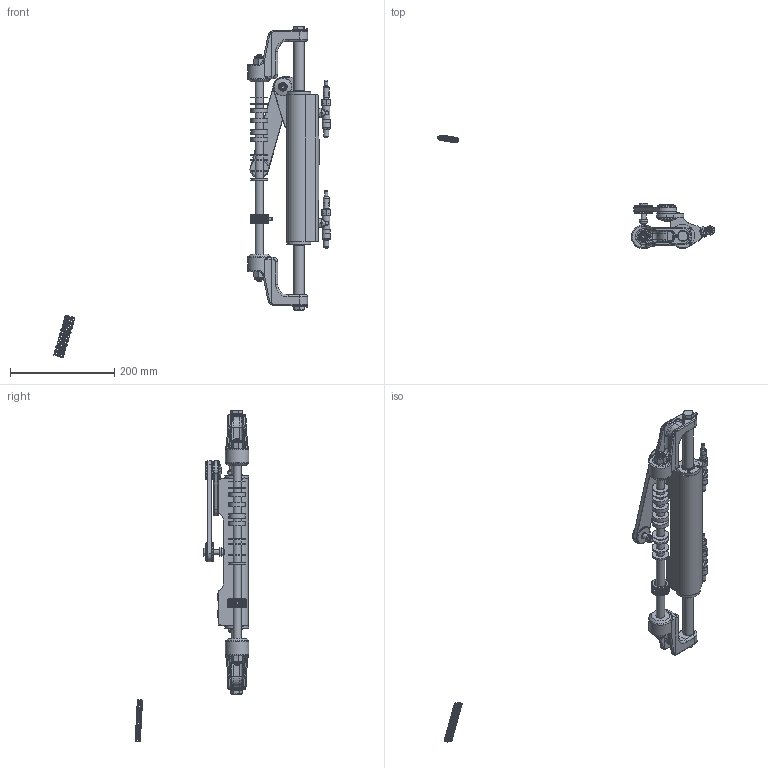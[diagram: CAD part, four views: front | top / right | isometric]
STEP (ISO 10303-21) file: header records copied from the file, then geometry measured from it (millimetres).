
FILE_DESCRIPTION(/* description */ (''),/* implementation_level */ '2;1');
FILE_NAME(/* name */ 'C:\Users\a.milanese\Desktop\Temporanea\UC128TS 5-9-2019.stp',/* time_stamp */ '2019-09-05T13:56:25+02:00',/* author */ ('a.milanese'),/* organization */ (''),/* preprocessor_version */ 'ST-DEVELOPER v18',/* originating_system */ 'Autodesk Inventor 2020',/* authorisation */ '');
FILE_SCHEMA (('AUTOMOTIVE_DESIGN { 1 0 10303 214 3 1 1 }'));
Length unit declared in the file: millimetre
Products named in the file (62): 32203 COMPLESSIVO ASSEMBLATO UC128-1 STARBOARD TESTATA SMONTABILE; 32215 ; 32212 ; 32216 ; 18137; 18129; 21680; 18042; 21681; 21828; 19097; 18131; 22823; 18134; 18135; 18982; 18136; 9591; 9601; 20429; 22411; 20303; 20562; 27785; 21971; 20564; 6674; 20452; 20395 ; 809; 22415; 22416; 8115; 8139; 8231; 27242; 22313; 20315; 25009 ; 24638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
Assembly tree (97 placements, depth 3):
  32203 COMPLESSIVO ASSEMBLATO UC128-1 STARBOARD TESTATA SMONTABILE
    32215   x2
    32212 
    32216   x2
    18137  x2
    18129  x2
    21680
    18042
    21681
    21828
    21787  x2
    21743  x2
    21745  x2
    19097  x2
    18131
    22823
    18134  x2
    18135  x4
    18982
    18136  x3
    9591
    8231  x3
    9601
    20429
    22411
      20303
      20562  x4
      27785  x2
      21971
      20564
      6674
      20452
      20395   x2
      809
      22415
      22416
      8115
      8139  x2
      8231  x2
      27242
      22313
      20315
      25009 
      24638
    32201
    32200  x2
    32202  x2
    32206
    32631  x2
    32634   x2
    21070  x2
    33330  x2
    21682
    25107  x2
    18820  x2
    5260  x2
    22588  x2
    18823  x2
    22311   x2
      22311 RACCORDO ORIENTABILE ULTRAFLEX
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Bounding box: 531.68 x 217.98 x 636.36 mm (x, y, z)
Volume: 1149137.9 mm3; surface area: 377400.9 mm2
Topology: 84 solids, 84 shells, 2869 faces, 7717 edges, 5065 vertices
Faces by surface type: plane 1571, cylinder 485, cone 342, torus 302, bspline 164, sphere 5
Full cylindrical faces by diameter (mm): 1.5 x4, 3.2 x2, 3.242 x1, 3.571 x1, 3.6 x1, 4 x1, 4.8 x8, 4.9 x2, 5 x1, 5.1 x3, 5.359 x2, 5.5 x2, 6 x4, 6.35 x1, 6.6 x2, 6.7 x2, 6.917 x2, 7.2 x4, 7.5 x1, 7.6 x1, 7.9 x1, 8 x10, 8.05 x2, 8.611 x1, 8.8 x4, 9.4 x2, 9.5 x5, 9.525 x1, 9.6 x2, 9.8 x4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
Entity records: 86111 total; most frequent: CARTESIAN_POINT 26935, ORIENTED_EDGE 12236, DIRECTION 11812, EDGE_CURVE 6118, AXIS2_PLACEMENT_3D 4797, VERTEX_POINT 4027, EDGE_LOOP 2671, FACE_OUTER_BOUND 2235
